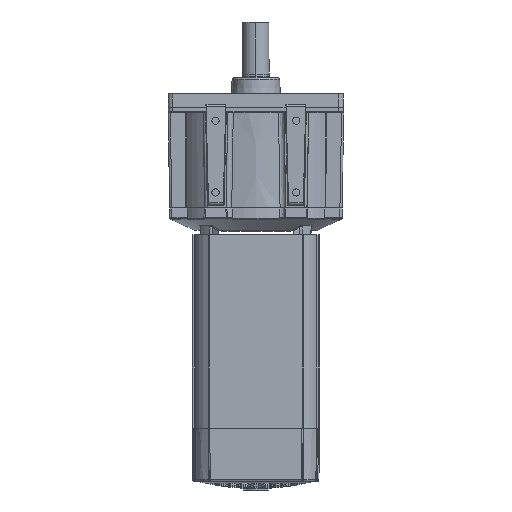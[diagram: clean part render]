
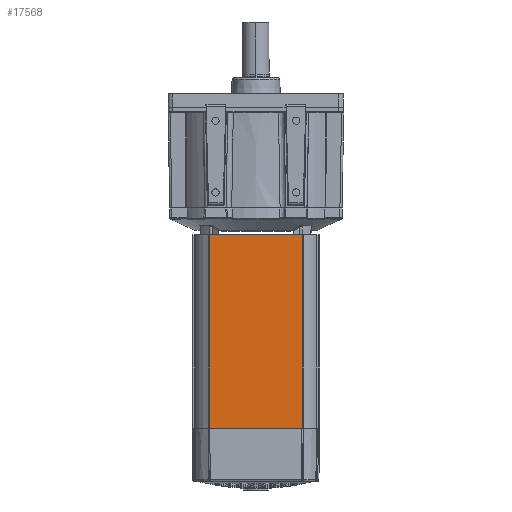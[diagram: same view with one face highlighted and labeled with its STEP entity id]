
A CAD part, front view. The second image highlights one B-rep face of the part: STEP entity #17568.
In plain terms, the highlighted planar face has unit normal (0, -1, 0).
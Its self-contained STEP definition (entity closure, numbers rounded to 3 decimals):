
#2513 = ORIENTED_EDGE ( 'NONE', *, *, #21880, .T. ) ;
#2639 = EDGE_CURVE ( 'NONE', #21852, #6347, #11790, .T. ) ;
#6347 = VERTEX_POINT ( 'NONE', #58447 ) ;
#10648 = VERTEX_POINT ( 'NONE', #61096 ) ;
#11345 = DIRECTION ( 'NONE',  ( -1., 0., 0. ) ) ;
#11776 = EDGE_LOOP ( 'NONE', ( #40068, #2513, #40769, #41781 ) ) ;
#11790 = LINE ( 'NONE', #62011, #15577 ) ;
#13598 = AXIS2_PLACEMENT_3D ( 'NONE', #29966, #29349, #53692 ) ;
#13931 = VERTEX_POINT ( 'NONE', #57269 ) ;
#15110 = EDGE_CURVE ( 'NONE', #21852, #10648, #40940, .T. ) ;
#15577 = VECTOR ( 'NONE', #26879, 1000. ) ;
#16616 = EDGE_CURVE ( 'NONE', #13931, #6347, #29232, .T. ) ;
#16722 = VECTOR ( 'NONE', #62396, 1000. ) ;
#17568 = ADVANCED_FACE ( 'NONE', ( #50704 ), #54119, .T. ) ;
#21852 = VERTEX_POINT ( 'NONE', #53836 ) ;
#21880 = EDGE_CURVE ( 'NONE', #13931, #10648, #48164, .T. ) ;
#26879 = DIRECTION ( 'NONE',  ( 0., 0., -1. ) ) ;
#28547 = CARTESIAN_POINT ( 'NONE',  ( 33.655, -45.123, -99.71 ) ) ;
#29232 = LINE ( 'NONE', #40567, #39034 ) ;
#29349 = DIRECTION ( 'NONE',  ( 0., -1., 0. ) ) ;
#29966 = CARTESIAN_POINT ( 'NONE',  ( 33.655, -45.123, -240.655 ) ) ;
#39034 = VECTOR ( 'NONE', #11345, 1000. ) ;
#39845 = VECTOR ( 'NONE', #44486, 1000. ) ;
#40068 = ORIENTED_EDGE ( 'NONE', *, *, #16616, .F. ) ;
#40567 = CARTESIAN_POINT ( 'NONE',  ( 33.147, -45.123, -236.743 ) ) ;
#40769 = ORIENTED_EDGE ( 'NONE', *, *, #15110, .F. ) ;
#40940 = LINE ( 'NONE', #28547, #16722 ) ;
#41781 = ORIENTED_EDGE ( 'NONE', *, *, #2639, .T. ) ;
#44486 = DIRECTION ( 'NONE',  ( 0., 0., 1. ) ) ;
#48164 = LINE ( 'NONE', #54042, #39845 ) ;
#50704 = FACE_OUTER_BOUND ( 'NONE', #11776, .T. ) ;
#53692 = DIRECTION ( 'NONE',  ( 0., 0., -1. ) ) ;
#53836 = CARTESIAN_POINT ( 'NONE',  ( -33.147, -45.123, -99.71 ) ) ;
#54042 = CARTESIAN_POINT ( 'NONE',  ( 33.147, -45.123, -240.655 ) ) ;
#54119 = PLANE ( 'NONE',  #13598 ) ;
#57269 = CARTESIAN_POINT ( 'NONE',  ( 33.147, -45.123, -236.743 ) ) ;
#58447 = CARTESIAN_POINT ( 'NONE',  ( -33.147, -45.123, -236.743 ) ) ;
#61096 = CARTESIAN_POINT ( 'NONE',  ( 33.147, -45.123, -99.71 ) ) ;
#62011 = CARTESIAN_POINT ( 'NONE',  ( -33.147, -45.123, -240.655 ) ) ;
#62396 = DIRECTION ( 'NONE',  ( 1., 0., 0. ) ) ;
